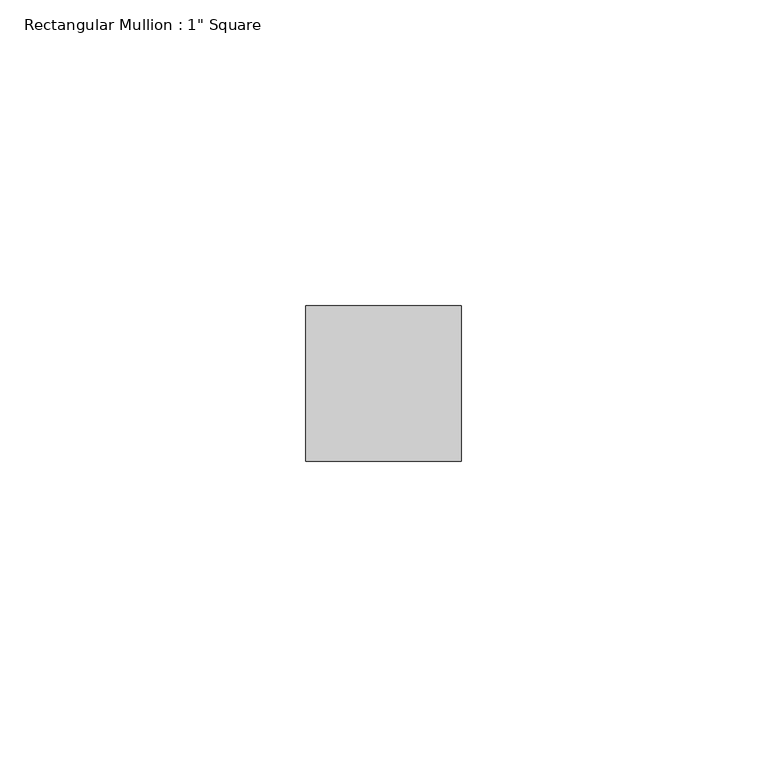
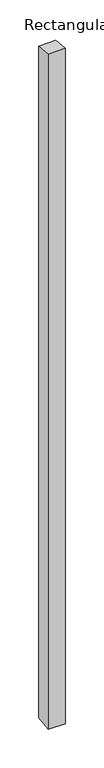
"""IFC4 building model written with IfcOpenShell, lengths in millimetres: member geometry."""

from ifc_helpers import new_model, si_unit, origin, place, context, project, spatial, faceted_brep, source, transform, mapped, element, save


def member_2db6e116(model_context):
    return source(origin(), model_context, "Body", "Brep", [
        faceted_brep([(-25.4, 12.7, -2.0679064), (0.0, 12.7, -1.4044536), (0.0, 12.7, -1065.3955464), (-25.4, 12.7, -1064.7320936), (-25.4, -12.7, 0.7410008), (-25.4, -12.7, -1067.5410008), (0.0, -12.7, 1.4044536), (0.0, -12.7, -1068.2044536)], [[[0, 1, 2, 3]], [[4, 0, 3, 5]], [[6, 4, 5, 7]], [[1, 6, 7, 2]], [[1, 0, 4, 6]], [[2, 7, 5, 3]]]),
    ])


if __name__ == "__main__":
    model = new_model("IFC4")
    model_context = context("Model", 3, world=origin())
    ifc_project = project(units=[si_unit("LENGTHUNIT", "METRE", prefix="MILLI")], contexts=[model_context])
    site = spatial("IfcSite", under=ifc_project)
    building = spatial("IfcBuilding", under=site)
    placement = place(None, origin())
    member_shape = member_2db6e116(model_context)
    element("IfcMember", 1, ObjectType="Rectangular Mullion : 1\" Square", at=placement, inside=building, context=model_context, shape_type="MappedRepresentation", body=[
        mapped(member_shape, transform((0.0, 0.0, 0.0), x_axis=(1.0, 0.0, 0.0), y_axis=(0.0, 1.0, 0.0), z_axis=(0.0, 0.0, 1.0))),
    ])
    save(model, "model.ifc")
